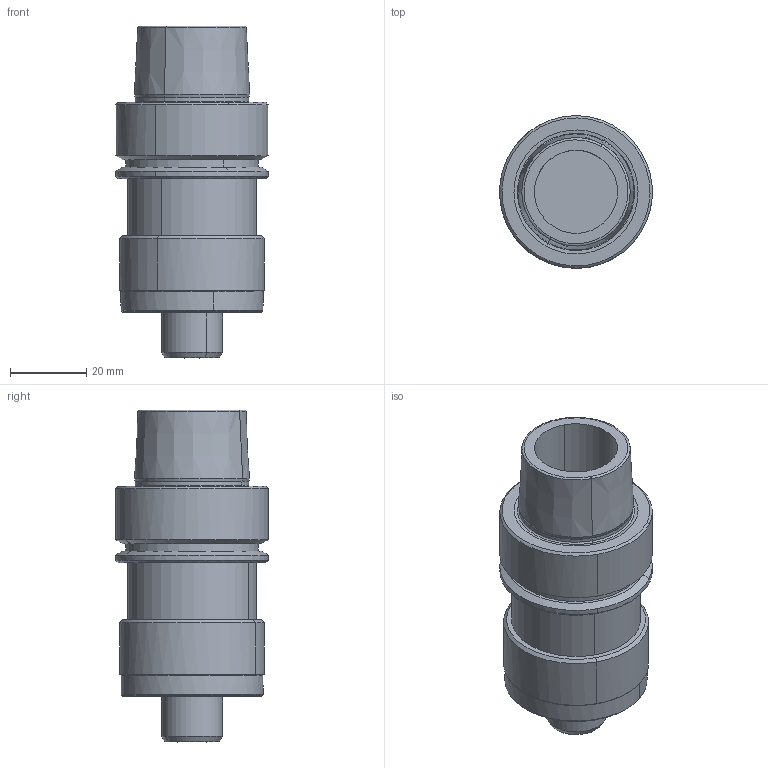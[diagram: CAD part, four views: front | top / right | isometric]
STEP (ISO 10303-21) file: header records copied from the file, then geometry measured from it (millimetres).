
FILE_DESCRIPTION(('CATIA V5 STEP','CAx-IF Rec.Pracs.--- Model Styling and Organization---1.2---2011-12-15'),'2;1');
FILE_NAME('C:\eit\appserv\eitdev\tmp\eit\transmagicconvert\13103520\4504486-L-M.stp','2017-04-13T07:35:24+00:00',('none'),('none'),'CATIA Version 5 Release 21 SP 5 (IN-10)','CATIA V5 STEP AP214','none');
FILE_SCHEMA(('AUTOMOTIVE_DESIGN { 1 0 10303 214 1 1 1 1 }'));
Length unit declared in the file: millimetre
Products named in the file (1): HSK E 40 SEM 16X50
Bounding box: 39.99 x 40 x 87 mm (x, y, z)
Volume: 64154.5 mm3; surface area: 14861.5 mm2
Topology: 1 solids, 1 shells, 96 faces, 220 edges, 133 vertices
Faces by surface type: cone 29, cylinder 24, revolution 22, plane 11, torus 10
Entity records: 2869 total; most frequent: CARTESIAN_POINT 768, ORIENTED_EDGE 434, DIRECTION 360, EDGE_CURVE 217, AXIS2_PLACEMENT_3D 203, VERTEX_POINT 133, CIRCLE 127, EDGE_LOOP 106
